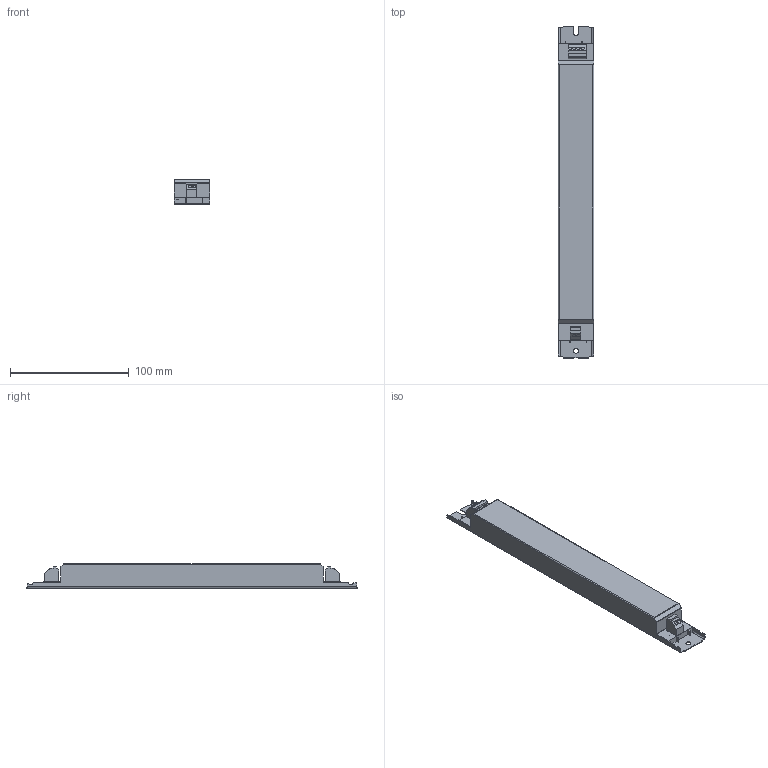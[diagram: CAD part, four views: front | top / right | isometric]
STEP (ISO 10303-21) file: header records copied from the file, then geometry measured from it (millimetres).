
FILE_DESCRIPTION((''),'2;1');
FILE_NAME('15011259','2017-09-18T',('elon.guo'),(''),'PRO/ENGINEER BY PARAMETRIC TECHNOLOGY CORPORATION, 2015200','PRO/ENGINEER BY PARAMETRIC TECHNOLOGY CORPORATION, 2015200','');
FILE_SCHEMA(('AUTOMOTIVE_DESIGN { 1 0 10303 214 1 1 1 1 }'));
Length unit declared in the file: millimetre
Products named in the file (1): 15011259
Bounding box: 30 x 280 x 21 mm (x, y, z)
Volume: 147138.1 mm3; surface area: 28599.5 mm2
Topology: 1 solids, 7 shells, 164 faces, 454 edges, 308 vertices
Faces by surface type: plane 97, cylinder 63, torus 4
Entity records: 8434 total; most frequent: CARTESIAN_POINT 1024, DIRECTION 913, ORIENTED_EDGE 898, PRESENTATION_STYLE_ASSIGNMENT 621, STYLED_ITEM 460, CURVE_STYLE 454, EDGE_CURVE 454, AXIS2_PLACEMENT_3D 309
